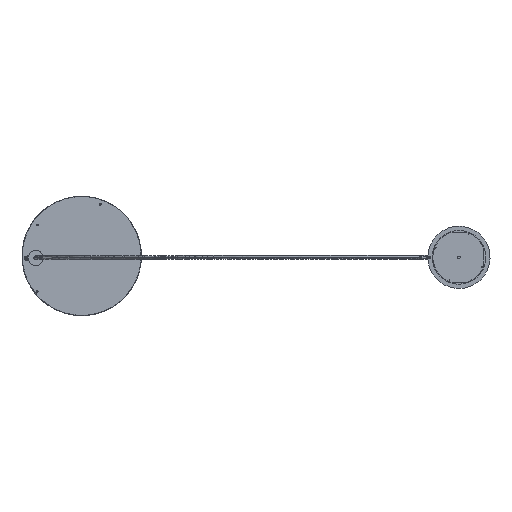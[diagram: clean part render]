
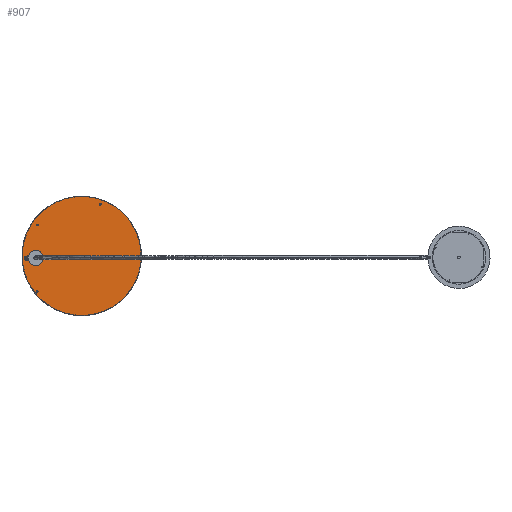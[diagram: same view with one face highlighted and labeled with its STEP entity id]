
A CAD part, top view. The second image highlights one B-rep face of the part: STEP entity #907.
In plain terms, the highlighted planar face has unit normal (0, 0, 1).
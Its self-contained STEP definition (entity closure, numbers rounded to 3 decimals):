
#907=ADVANCED_FACE('',(#1503),#8883,.T.);
#1503=FACE_OUTER_BOUND('',#2145,.T.);
#2145=EDGE_LOOP('',(#4970,#4971));
#4970=ORIENTED_EDGE('',*,*,#6380,.T.);
#4971=ORIENTED_EDGE('',*,*,#6383,.F.);
#6380=EDGE_CURVE('',#8681,#8682,#7065,.T.);
#6383=EDGE_CURVE('',#8681,#8682,#7068,.T.);
#7065=(
BOUNDED_CURVE()
B_SPLINE_CURVE(2,(#29070,#29071,#29072,#29073,#29074),.UNSPECIFIED.,.F.,
 .F.)
B_SPLINE_CURVE_WITH_KNOTS((3,2,3),(-750.841,-375.42,0.),
 .UNSPECIFIED.)
CURVE()
GEOMETRIC_REPRESENTATION_ITEM()
RATIONAL_B_SPLINE_CURVE((1.,0.707,1.,0.707,1.))
REPRESENTATION_ITEM('')
);
#7068=(
BOUNDED_CURVE()
B_SPLINE_CURVE(2,(#29085,#29086,#29087,#29088,#29089),.UNSPECIFIED.,.F.,
 .F.)
B_SPLINE_CURVE_WITH_KNOTS((3,2,3),(0.,375.42,750.841),
 .UNSPECIFIED.)
CURVE()
GEOMETRIC_REPRESENTATION_ITEM()
RATIONAL_B_SPLINE_CURVE((1.,0.707,1.,0.707,1.))
REPRESENTATION_ITEM('')
);
#8681=VERTEX_POINT('',#29041);
#8682=VERTEX_POINT('',#29042);
#8883=PLANE('',#9499);
#9499=AXIS2_PLACEMENT_3D('',#29034,#9703,$);
#9703=DIRECTION('',(0.,0.,1.));
#29034=CARTESIAN_POINT('',(-3243.78,735.47,-949.25));
#29041=CARTESIAN_POINT('',(-3000.,740.25,-949.25));
#29042=CARTESIAN_POINT('',(-3000.,1218.25,-949.25));
#29070=CARTESIAN_POINT('',(-3000.,740.25,-949.25));
#29071=CARTESIAN_POINT('',(-2761.,740.25,-949.25));
#29072=CARTESIAN_POINT('',(-2761.,979.25,-949.25));
#29073=CARTESIAN_POINT('',(-2761.,1218.25,-949.25));
#29074=CARTESIAN_POINT('',(-3000.,1218.25,-949.25));
#29085=CARTESIAN_POINT('',(-3000.,740.25,-949.25));
#29086=CARTESIAN_POINT('',(-3239.,740.25,-949.25));
#29087=CARTESIAN_POINT('',(-3239.,979.25,-949.25));
#29088=CARTESIAN_POINT('',(-3239.,1218.25,-949.25));
#29089=CARTESIAN_POINT('',(-3000.,1218.25,-949.25));
